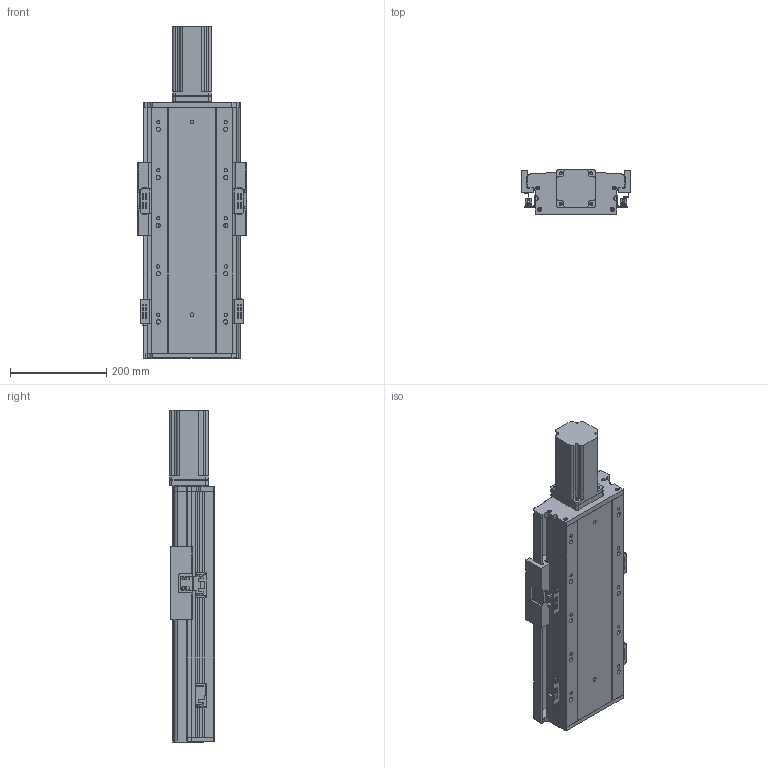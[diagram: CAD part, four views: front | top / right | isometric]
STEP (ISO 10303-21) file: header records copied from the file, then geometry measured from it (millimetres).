
FILE_DESCRIPTION (( 'STEP AP203' ), '1' );
FILE_NAME ('RY170FB-L2510-300-MK.SLDASM_200.step', '2021-02-22T08:56:23', ( '盈信电脑' ), ( '东莞市道滘镇水果街19号' ), 'SwSTEP 2.0', 'SolidWorks 2012', '' );
FILE_SCHEMA (( 'CONFIG_CONTROL_DESIGN' ));
Length unit declared in the file: millimetre
Products named in the file (16): 侂狟750W萇儂ㄗ80遺ㄘ; 750W萇儂梓袧蛌諉啣; 覜茼ん674; RY170FB-300奻裔_200; 滅袉蝶18-10; RY170FB-铝滑块(25丝杆）; 滅袉蝶18-28; RY170FB-綴裔啣; RY170FB-ヶ裔啣; RY170FB-300倰第菁釱-MK_200; RY140直线电机感应器674光电安装座; RY140FB-674嫖萇覜茼え; RY140-674嫖萇耀輸; RY140FB-覜茼え; RY170FB-L2510-300-MK.SLDASM_200
Assembly tree (20 placements, depth 3):
  RY170FB-L2510-300-MK.SLDASM_200
    RY170FB-300倰第菁釱-MK_200
    RY170FB-綴裔啣
    RY170FB-ヶ裔啣
    滅袉蝶18-28
    滅袉蝶18-10
    RY170FB-铝滑块(25丝杆）
    RY170FB-300奻裔_200
    750W萇儂梓袧蛌諉啣
    侂狟750W萇儂ㄗ80遺ㄘ
    RY140-674嫖萇耀輸  x2
      覜茼ん674
      RY140直线电机感应器674光电安装座
    RY140FB-674嫖萇覜茼え
    RY140-674嫖萇耀輸  x2
      覜茼ん674
      RY140直线电机感应器674光电安装座
    RY140FB-覜茼え
Bounding box: 225 x 93.2 x 689.5 mm (x, y, z)
Volume: 4203780.3 mm3; surface area: 1089744.4 mm2
Topology: 21 solids, 21 shells, 1521 faces, 4257 edges, 2754 vertices
Faces by surface type: plane 761, cylinder 680, cone 80
Entity records: 37041 total; most frequent: CARTESIAN_POINT 7422, DIRECTION 5885, ORIENTED_EDGE 5806, EDGE_CURVE 2903, AXIS2_PLACEMENT_3D 2121, VERTEX_POINT 1908, LINE 1643, VECTOR 1643
